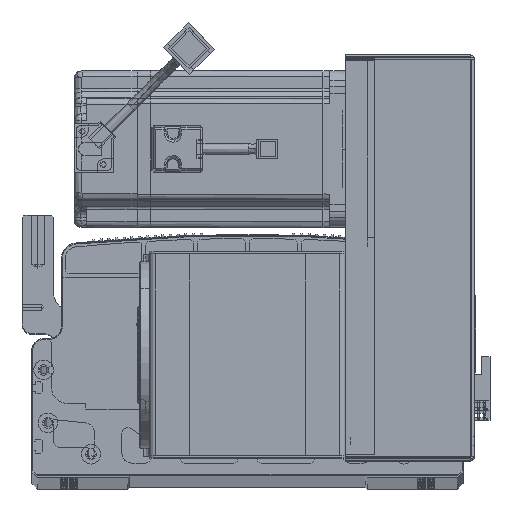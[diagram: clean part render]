
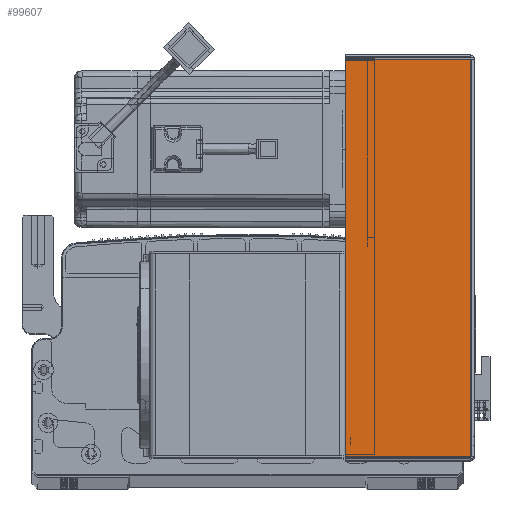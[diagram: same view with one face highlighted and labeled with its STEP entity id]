
A CAD part, top view. The second image highlights one B-rep face of the part: STEP entity #99607.
In plain terms, the highlighted planar face has unit normal (0, 0, 1) as drawn and (0, -1, 0) by its records, which use the part's own axes.
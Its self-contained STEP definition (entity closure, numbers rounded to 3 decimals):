
#2582 = ORIENTED_EDGE ( 'NONE', *, *, #22010, .T. ) ;
#5050 = CARTESIAN_POINT ( 'NONE',  ( 0., -1.5, -203.293 ) ) ;
#6781 = CARTESIAN_POINT ( 'NONE',  ( 0.737, -1.5, -203.293 ) ) ;
#7268 = VERTEX_POINT ( 'NONE', #47396 ) ;
#7938 = ORIENTED_EDGE ( 'NONE', *, *, #22135, .T. ) ;
#9261 = CARTESIAN_POINT ( 'NONE',  ( 64.5, -1.5, -203.293 ) ) ;
#11161 = VECTOR ( 'NONE', #74874, 1000. ) ;
#13097 = VERTEX_POINT ( 'NONE', #9261 ) ;
#13826 = DIRECTION ( 'NONE',  ( 0., 0., 1. ) ) ;
#16218 = VERTEX_POINT ( 'NONE', #78472 ) ;
#21800 = CARTESIAN_POINT ( 'NONE',  ( 0., -1.5, 0. ) ) ;
#22010 = EDGE_CURVE ( 'NONE', #40574, #13097, #83085, .T. ) ;
#22135 = EDGE_CURVE ( 'NONE', #13097, #7268, #50096, .T. ) ;
#26960 = EDGE_CURVE ( 'NONE', #16218, #7268, #83797, .T. ) ;
#29247 = DIRECTION ( 'NONE',  ( 1., 0., 0. ) ) ;
#40574 = VERTEX_POINT ( 'NONE', #6781 ) ;
#43160 = ORIENTED_EDGE ( 'NONE', *, *, #26960, .F. ) ;
#47396 = CARTESIAN_POINT ( 'NONE',  ( 64.5, -1.5, -0.707 ) ) ;
#50096 = LINE ( 'NONE', #99746, #75623 ) ;
#50925 = AXIS2_PLACEMENT_3D ( 'NONE', #21800, #60259, #52788 ) ;
#52788 = DIRECTION ( 'NONE',  ( -1., 0., 0. ) ) ;
#53127 = PLANE ( 'NONE',  #50925 ) ;
#53425 = DIRECTION ( 'NONE',  ( 0., 0., 1. ) ) ;
#60259 = DIRECTION ( 'NONE',  ( 0., 1., 0. ) ) ;
#64523 = EDGE_LOOP ( 'NONE', ( #72265, #2582, #7938, #43160 ) ) ;
#67807 = VECTOR ( 'NONE', #13826, 1000. ) ;
#69113 = VECTOR ( 'NONE', #29247, 1000. ) ;
#71534 = LINE ( 'NONE', #83636, #67807 ) ;
#72265 = ORIENTED_EDGE ( 'NONE', *, *, #76204, .F. ) ;
#74874 = DIRECTION ( 'NONE',  ( 1., 0., 0. ) ) ;
#75623 = VECTOR ( 'NONE', #53425, 1000. ) ;
#76204 = EDGE_CURVE ( 'NONE', #40574, #16218, #71534, .T. ) ;
#78472 = CARTESIAN_POINT ( 'NONE',  ( 0.737, -1.5, -0.707 ) ) ;
#78744 = FACE_OUTER_BOUND ( 'NONE', #64523, .T. ) ;
#83085 = LINE ( 'NONE', #5050, #11161 ) ;
#83636 = CARTESIAN_POINT ( 'NONE',  ( 0.737, -1.5, 0. ) ) ;
#83797 = LINE ( 'NONE', #98704, #69113 ) ;
#98704 = CARTESIAN_POINT ( 'NONE',  ( 0., -1.5, -0.707 ) ) ;
#99607 = ADVANCED_FACE ( 'NONE', ( #78744 ), #53127, .F. ) ;
#99746 = CARTESIAN_POINT ( 'NONE',  ( 64.5, -1.5, 0. ) ) ;
